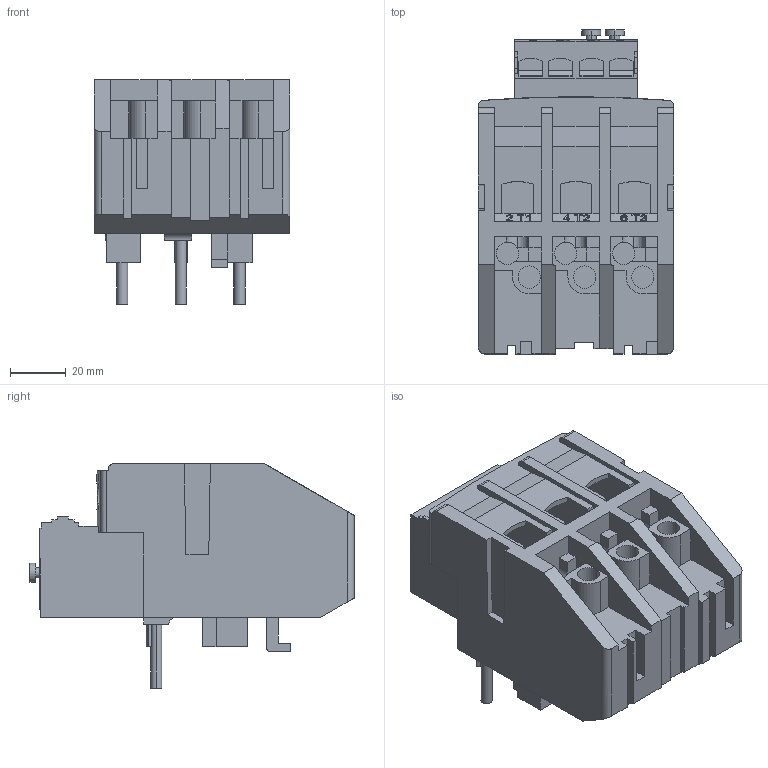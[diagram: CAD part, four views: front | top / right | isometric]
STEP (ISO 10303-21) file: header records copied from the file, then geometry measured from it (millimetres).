
FILE_DESCRIPTION (( 'STEP AP203' ), '1' );
FILE_NAME ('ﾐﾒﾋ-2000.STEP', '2019-06-07T10:17:01', ( '' ), ( '' ), 'SwSTEP 2.0', 'SolidWorks 2018', '' );
FILE_SCHEMA (( 'CONFIG_CONTROL_DESIGN' ));
Length unit declared in the file: millimetre
Products named in the file (1): ﾐﾒﾋ-2000
Bounding box: 70 x 116 x 80.3 mm (x, y, z)
Volume: 291331.1 mm3; surface area: 50949.9 mm2
Topology: 1 solids, 1 shells, 941 faces, 2576 edges, 1712 vertices
Faces by surface type: plane 556, bspline 281, cylinder 104
Entity records: 48899 total; most frequent: CARTESIAN_POINT 27076, ORIENTED_EDGE 5152, DIRECTION 3316, EDGE_CURVE 2576, VERTEX_POINT 1712, LINE 1608, VECTOR 1608, EDGE_LOOP 1036
